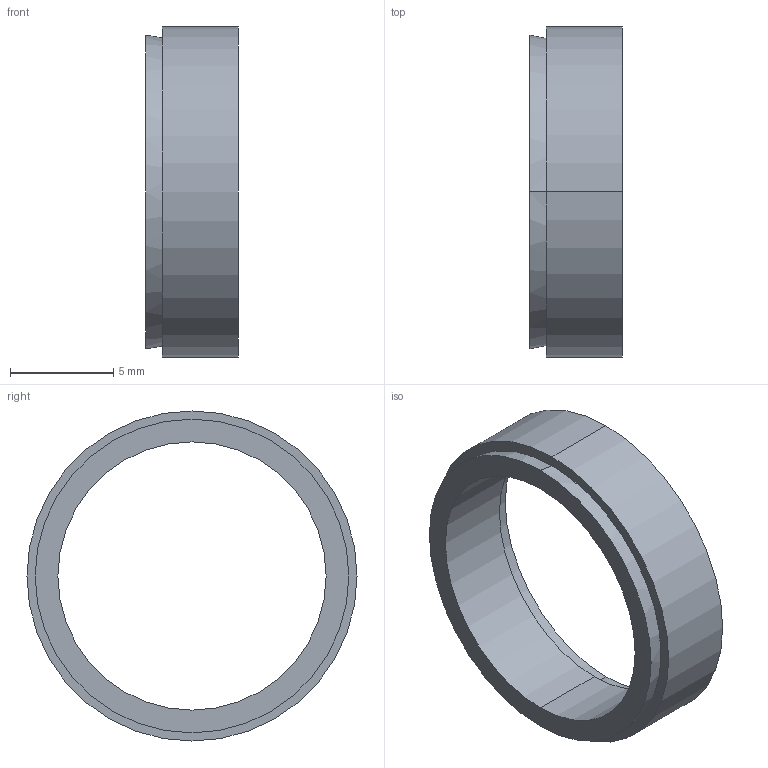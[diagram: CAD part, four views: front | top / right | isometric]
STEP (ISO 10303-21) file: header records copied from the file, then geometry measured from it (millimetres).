
FILE_DESCRIPTION (( 'STEP AP203' ), '1' );
FILE_NAME ('SC-13.STEP', '2009-09-29T15:56:38', ( 'USER' ), ( 'HOME' ), 'SwSTEP 2.0', 'SolidWorks 2007', '' );
FILE_SCHEMA (( 'CONFIG_CONTROL_DESIGN' ));
Length unit declared in the file: millimetre
Products named in the file (1): SC-13
Bounding box: 4.5 x 16 x 16 mm (x, y, z)
Volume: 273.8 mm3; surface area: 826.2 mm2
Topology: 2 solids, 2 shells, 12 faces, 24 edges, 16 vertices
Faces by surface type: cone 4, cylinder 4, plane 4
Entity records: 407 total; most frequent: DIRECTION 66, CARTESIAN_POINT 53, ORIENTED_EDGE 48, AXIS2_PLACEMENT_3D 29, EDGE_CURVE 24, EDGE_LOOP 16, VERTEX_POINT 16, CIRCLE 16
